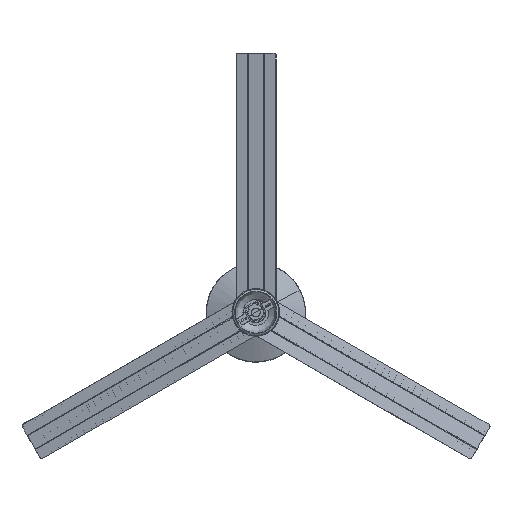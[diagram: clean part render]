
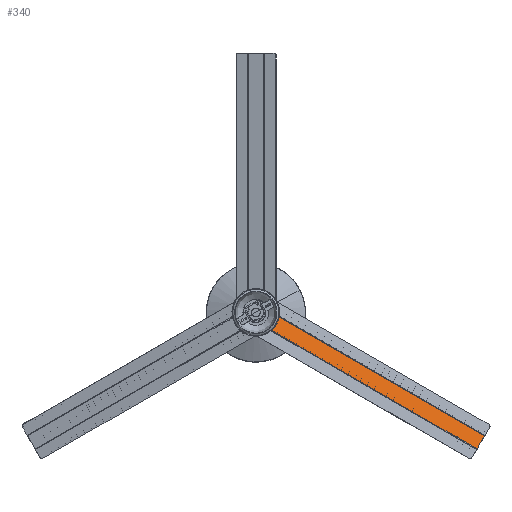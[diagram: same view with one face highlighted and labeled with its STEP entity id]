
A CAD part, top view. The second image highlights one B-rep face of the part: STEP entity #340.
In plain terms, the highlighted planar face has unit normal (0.113, 0.195, 0.974).
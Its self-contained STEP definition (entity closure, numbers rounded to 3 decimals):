
#106=FACE_BOUND('',#2097,.T.);
#340=ADVANCED_FACE('',(#1214,#106),#14942,.T.);
#1214=FACE_OUTER_BOUND('',#2096,.T.);
#2096=EDGE_LOOP('',(#3896,#3897,#3898,#3899));
#2097=EDGE_LOOP('',(#3900,#3901));
#3896=ORIENTED_EDGE('',*,*,#8262,.T.);
#3897=ORIENTED_EDGE('',*,*,#8250,.F.);
#3898=ORIENTED_EDGE('',*,*,#8251,.T.);
#3899=ORIENTED_EDGE('',*,*,#8252,.F.);
#3900=ORIENTED_EDGE('',*,*,#8190,.T.);
#3901=ORIENTED_EDGE('',*,*,#8192,.T.);
#8190=EDGE_CURVE('',#13538,#13537,#10427,.T.);
#8192=EDGE_CURVE('',#13537,#13538,#10428,.T.);
#8250=EDGE_CURVE('',#13489,#13496,#11797,.T.);
#8251=EDGE_CURVE('',#13489,#13470,#10435,.T.);
#8252=EDGE_CURVE('',#13469,#13470,#11798,.T.);
#8262=EDGE_CURVE('',#13469,#13496,#11805,.T.);
#10427=TRIMMED_CURVE($,#10959,(#20768),(#20769),.T.,.CARTESIAN.);
#10428=TRIMMED_CURVE($,#10960,(#20773),(#20774),.T.,.CARTESIAN.);
#10435=TRIMMED_CURVE($,#10967,(#20929),(#20930),.T.,.CARTESIAN.);
#10959=CIRCLE('',#15945,2.6);
#10960=CIRCLE('',#15946,2.6);
#10967=CIRCLE('',#15953,56.);
#11797=B_SPLINE_CURVE_WITH_KNOTS('',1,(#20926,#20927),.UNSPECIFIED.,.F.,
 .F.,(2,2),(-749.414,0.),.UNSPECIFIED.);
#11798=B_SPLINE_CURVE_WITH_KNOTS('',1,(#20931,#20932),.UNSPECIFIED.,.F.,
 .F.,(2,2),(-749.372,0.),.UNSPECIFIED.);
#11805=B_SPLINE_CURVE_WITH_KNOTS('',1,(#20954,#20955),.UNSPECIFIED.,.F.,
 .F.,(2,2),(-48.,0.),.UNSPECIFIED.);
#13469=VERTEX_POINT('',#20413);
#13470=VERTEX_POINT('',#20414);
#13489=VERTEX_POINT('',#20433);
#13496=VERTEX_POINT('',#20440);
#13537=VERTEX_POINT('',#20481);
#13538=VERTEX_POINT('',#20482);
#14942=PLANE('',#15929);
#15929=AXIS2_PLACEMENT_3D('',#20378,#17319,$);
#15945=AXIS2_PLACEMENT_3D($,#20767,#17345,#17346);
#15946=AXIS2_PLACEMENT_3D($,#20772,#17347,#17348);
#15953=AXIS2_PLACEMENT_3D($,#20928,#17361,#17362);
#17319=DIRECTION('',(0.112,0.195,0.974));
#17345=DIRECTION('',(-0.112,-0.195,-0.974));
#17346=DIRECTION('',(0.487,0.844,-0.225));
#17347=DIRECTION('',(-0.112,-0.195,-0.974));
#17348=DIRECTION('',(-0.487,-0.844,0.225));
#17361=DIRECTION('',(-0.112,-0.195,-0.974));
#17362=DIRECTION('',(0.991,-0.089,-0.097));
#20378=CARTESIAN_POINT('',(14428.311,-2077.39,72.466));
#20413=CARTESIAN_POINT('',(14365.715,-2035.688,71.354));
#20414=CARTESIAN_POINT('',(13716.739,-1661.002,71.354));
#20433=CARTESIAN_POINT('',(13740.088,-1620.477,60.557));
#20440=CARTESIAN_POINT('',(14389.1,-1995.184,60.557));
#20481=CARTESIAN_POINT('',(13741.332,-1651.172,66.55));
#20482=CARTESIAN_POINT('',(13743.865,-1646.784,65.38));
#20767=CARTESIAN_POINT('',(13742.598,-1648.978,65.965));
#20768=CARTESIAN_POINT('',(13743.865,-1646.784,65.38));
#20769=CARTESIAN_POINT('',(13741.332,-1651.172,66.55));
#20772=CARTESIAN_POINT('',(13742.598,-1648.978,65.965));
#20773=CARTESIAN_POINT('',(13741.332,-1651.172,66.55));
#20774=CARTESIAN_POINT('',(13743.865,-1646.784,65.38));
#20926=CARTESIAN_POINT('',(13740.088,-1620.477,60.557));
#20927=CARTESIAN_POINT('',(14389.1,-1995.184,60.557));
#20928=CARTESIAN_POINT('',(13684.575,-1615.478,65.965));
#20929=CARTESIAN_POINT('',(13740.088,-1620.477,60.557));
#20930=CARTESIAN_POINT('',(13716.739,-1661.002,71.354));
#20931=CARTESIAN_POINT('',(14365.715,-2035.688,71.354));
#20932=CARTESIAN_POINT('',(13716.739,-1661.002,71.354));
#20954=CARTESIAN_POINT('',(14365.715,-2035.688,71.354));
#20955=CARTESIAN_POINT('',(14389.1,-1995.184,60.557));
